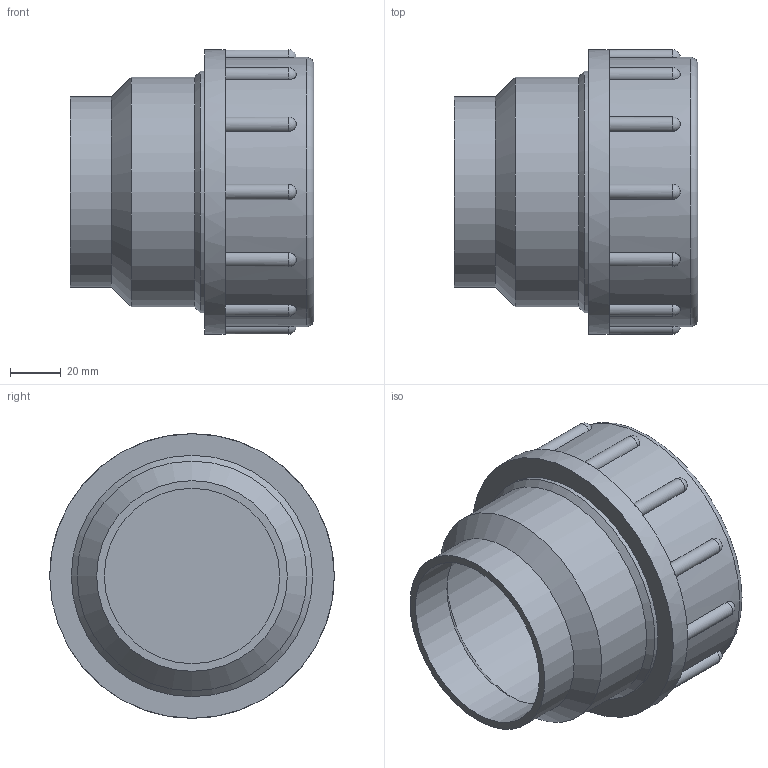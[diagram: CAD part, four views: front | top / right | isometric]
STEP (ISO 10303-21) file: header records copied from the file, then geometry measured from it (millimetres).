
FILE_DESCRIPTION(/* description */ (''),/* implementation_level */ '2;1');
FILE_NAME(/* name */ 'Z:\Geberit\Export\NewStep\365750.stp',/* time_stamp */ '2014-04-02T07:35:19+02:00',/* author */ ('Marco'),/* organization */ (''),/* preprocessor_version */ 'ST-DEVELOPER v15.2',/* originating_system */ 'Autodesk Inventor 2014',/* authorisation */ '');
FILE_SCHEMA (('AUTOMOTIVE_DESIGN { 1 0 10303 214 3 1 1 }'));
Length unit declared in the file: millimetre
Products named in the file (3): 365784; 365785; 365750
Bounding box: 96 x 112 x 112 mm (x, y, z)
Volume: 251757.6 mm3; surface area: 88179.6 mm2
Topology: 2 solids, 2 shells, 55 faces, 152 edges, 89 vertices
Faces by surface type: cylinder 21, plane 16, sphere 12, cone 5, torus 1
Full cylindrical faces by diameter (mm): 69 x1, 75 x1, 76 x1, 90.4 x2, 95 x2, 106 x1, 112 x1
Entity records: 1947 total; most frequent: CARTESIAN_POINT 538, DIRECTION 298, ORIENTED_EDGE 250, AXIS2_PLACEMENT_3D 137, EDGE_CURVE 125, VERTEX_POINT 89, CIRCLE 77, EDGE_LOOP 72
